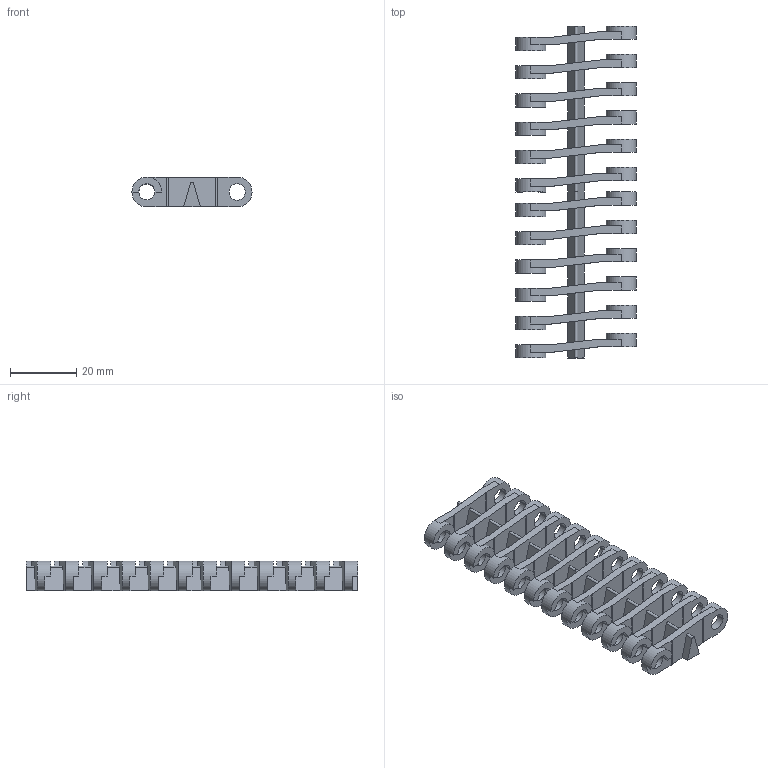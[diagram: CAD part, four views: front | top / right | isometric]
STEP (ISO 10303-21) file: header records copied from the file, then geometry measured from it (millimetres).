
FILE_DESCRIPTION(('CATIA V5 STEP Exchange'),'2;1');
FILE_NAME('C:\Users\ALI OZGUN\Desktop\alhan\965B01K050.stp','2017-08-17T05:56:41+00:00',('none'),('none'),'CATIA Version 5 Release 21 GA (IN-10)','CATIA V5 STEP AP203','none');
FILE_SCHEMA(('CONFIG_CONTROL_DESIGN'));
Length unit declared in the file: millimetre
Products named in the file (1): 965B01K5100
Bounding box: 36.2 x 100 x 9 mm (x, y, z)
Volume: 9951.2 mm3; surface area: 11756.4 mm2
Topology: 1 solids, 1 shells, 331 faces, 1017 edges, 676 vertices
Faces by surface type: plane 185, cylinder 146
Entity records: 10503 total; most frequent: ORIENTED_EDGE 2034, CARTESIAN_POINT 1983, DIRECTION 1331, EDGE_CURVE 1017, VECTOR 678, LINE 678, VERTEX_POINT 676, AXIS2_PLACEMENT_3D 485
